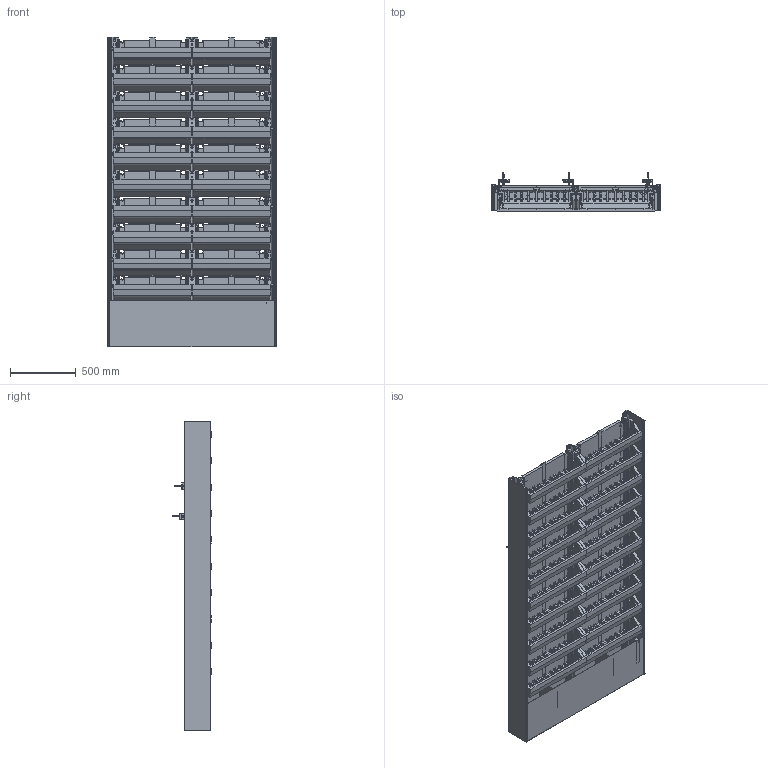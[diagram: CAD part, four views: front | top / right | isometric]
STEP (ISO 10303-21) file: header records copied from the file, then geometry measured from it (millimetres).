
FILE_DESCRIPTION(/* description */ (''),/* implementation_level */ '2;1');
FILE_NAME(/* name */ 'VP_EASY_Monofacciale_120 3D ',/* time_stamp */ '2023-04-12T11:22:45+02:00',/* author */ (''),/* organization */ (''),/* preprocessor_version */ 'ST-DEVELOPER v16.5',/* originating_system */ 'Rhino 7.20',/* authorisation */ '');
FILE_SCHEMA (('CONFIG_CONTROL_DESIGN'));
Products named in the file (1): Document
Bounding box: 1275.98 x 293.05 x 2350 mm (x, y, z)
Topology: 207 solids, 394 shells, 20660 faces, 55010 edges, 34373 vertices
Faces by surface type: plane 10203, cylinder 7564, bspline 2893
Full cylindrical faces by diameter (mm): 5 x120, 6 x62, 6.5 x3, 8 x1, 8.4 x12, 12 x1, 13 x22, 16 x11, 18 x3, 24 x1, 24.598 x10, 24.782 x38, 27.99 x11, 28.178 x10, 31.75 x6
Entity records: 965057 total; most frequent: CARTESIAN_POINT 619910, ORIENTED_EDGE 106611, EDGE_CURVE 54969, VERTEX_POINT 34368, B_SPLINE_CURVE_WITH_KNOTS 31704, EDGE_LOOP 21065, ADVANCED_FACE 20660, FACE_OUTER_BOUND 20660
